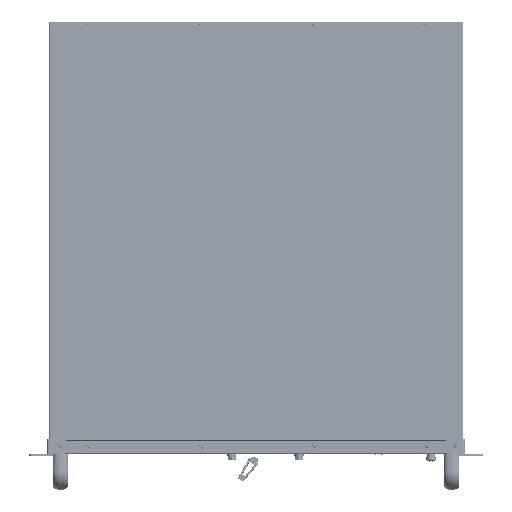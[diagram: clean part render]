
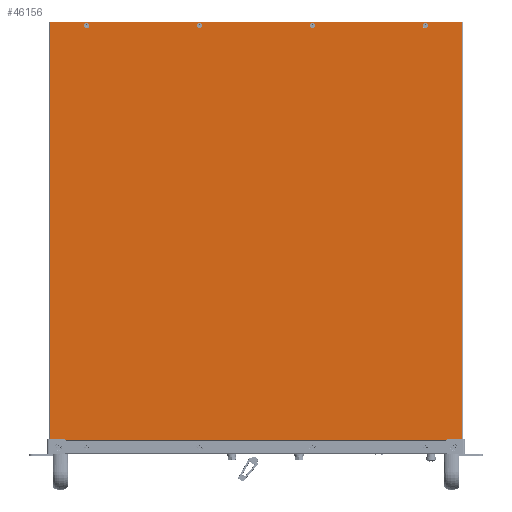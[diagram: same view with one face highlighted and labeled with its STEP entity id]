
A CAD part, top view. The second image highlights one B-rep face of the part: STEP entity #46156.
In plain terms, the highlighted planar face has unit normal (0, 0, 1) as drawn and (0, 0, -1) by its records, which use the part's own axes.
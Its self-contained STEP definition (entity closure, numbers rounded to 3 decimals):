
#44537=DIRECTION('',(0.,1.,0.));
#44538=VECTOR('',#44537,0.8);
#44539=CARTESIAN_POINT('',(202.,-221.3,0.));
#44540=LINE('',#44539,#44538);
#44541=DIRECTION('',(1.,0.,0.));
#44542=VECTOR('',#44541,16.3);
#44543=CARTESIAN_POINT('',(202.3,-222.5,0.));
#44544=LINE('',#44543,#44542);
#44545=DIRECTION('',(-1.,0.,0.));
#44546=VECTOR('',#44545,437.2);
#44547=CARTESIAN_POINT('',(218.6,222.5,0.));
#44548=LINE('',#44547,#44546);
#44549=DIRECTION('',(1.,0.,0.));
#44550=VECTOR('',#44549,16.3);
#44551=CARTESIAN_POINT('',(-218.6,-222.5,0.));
#44552=LINE('',#44551,#44550);
#44553=DIRECTION('',(0.,1.,0.));
#44554=VECTOR('',#44553,2.);
#44555=CARTESIAN_POINT('',(-202.3,-222.5,0.));
#44556=LINE('',#44555,#44554);
#44557=CARTESIAN_POINT('',(-180.,218.5,0.));
#44558=DIRECTION('',(0.,0.,-1.));
#44559=DIRECTION('',(1.,0.,0.));
#44560=AXIS2_PLACEMENT_3D('',#44557,#44558,#44559);
#44562=CARTESIAN_POINT('',(-180.,218.5,0.));
#44563=DIRECTION('',(0.,0.,-1.));
#44564=DIRECTION('',(0.,-1.,0.));
#44565=AXIS2_PLACEMENT_3D('',#44562,#44563,#44564);
#44567=CARTESIAN_POINT('',(-180.,218.5,0.));
#44568=DIRECTION('',(0.,0.,-1.));
#44569=DIRECTION('',(-1.,0.,0.));
#44570=AXIS2_PLACEMENT_3D('',#44567,#44568,#44569);
#44572=CARTESIAN_POINT('',(-180.,218.5,0.));
#44573=DIRECTION('',(0.,0.,-1.));
#44574=DIRECTION('',(0.,1.,0.));
#44575=AXIS2_PLACEMENT_3D('',#44572,#44573,#44574);
#44577=CARTESIAN_POINT('',(60.,218.5,0.));
#44578=DIRECTION('',(0.,0.,-1.));
#44579=DIRECTION('',(-1.,0.,0.));
#44580=AXIS2_PLACEMENT_3D('',#44577,#44578,#44579);
#44582=CARTESIAN_POINT('',(60.,218.5,0.));
#44583=DIRECTION('',(0.,0.,-1.));
#44584=DIRECTION('',(0.,1.,0.));
#44585=AXIS2_PLACEMENT_3D('',#44582,#44583,#44584);
#44587=CARTESIAN_POINT('',(60.,218.5,0.));
#44588=DIRECTION('',(0.,0.,-1.));
#44589=DIRECTION('',(1.,0.,0.));
#44590=AXIS2_PLACEMENT_3D('',#44587,#44588,#44589);
#44592=CARTESIAN_POINT('',(60.,218.5,0.));
#44593=DIRECTION('',(0.,0.,-1.));
#44594=DIRECTION('',(0.,-1.,0.));
#44595=AXIS2_PLACEMENT_3D('',#44592,#44593,#44594);
#44597=CARTESIAN_POINT('',(180.,218.5,0.));
#44598=DIRECTION('',(0.,0.,-1.));
#44599=DIRECTION('',(-1.,0.,0.));
#44600=AXIS2_PLACEMENT_3D('',#44597,#44598,#44599);
#44602=CARTESIAN_POINT('',(180.,218.5,0.));
#44603=DIRECTION('',(0.,0.,-1.));
#44604=DIRECTION('',(0.,1.,0.));
#44605=AXIS2_PLACEMENT_3D('',#44602,#44603,#44604);
#44607=CARTESIAN_POINT('',(180.,218.5,0.));
#44608=DIRECTION('',(0.,0.,-1.));
#44609=DIRECTION('',(1.,0.,0.));
#44610=AXIS2_PLACEMENT_3D('',#44607,#44608,#44609);
#44612=CARTESIAN_POINT('',(180.,218.5,0.));
#44613=DIRECTION('',(0.,0.,-1.));
#44614=DIRECTION('',(0.,-1.,0.));
#44615=AXIS2_PLACEMENT_3D('',#44612,#44613,#44614);
#44617=CARTESIAN_POINT('',(-60.,218.5,0.));
#44618=DIRECTION('',(0.,0.,-1.));
#44619=DIRECTION('',(1.,0.,0.));
#44620=AXIS2_PLACEMENT_3D('',#44617,#44618,#44619);
#44622=CARTESIAN_POINT('',(-60.,218.5,0.));
#44623=DIRECTION('',(0.,0.,-1.));
#44624=DIRECTION('',(0.,-1.,0.));
#44625=AXIS2_PLACEMENT_3D('',#44622,#44623,#44624);
#44627=CARTESIAN_POINT('',(-60.,218.5,0.));
#44628=DIRECTION('',(0.,0.,-1.));
#44629=DIRECTION('',(-1.,0.,0.));
#44630=AXIS2_PLACEMENT_3D('',#44627,#44628,#44629);
#44632=CARTESIAN_POINT('',(-60.,218.5,0.));
#44633=DIRECTION('',(0.,0.,-1.));
#44634=DIRECTION('',(0.,1.,0.));
#44635=AXIS2_PLACEMENT_3D('',#44632,#44633,#44634);
#44641=DIRECTION('',(-1.,0.,0.));
#44642=VECTOR('',#44641,404.);
#44643=CARTESIAN_POINT('',(202.,-221.3,0.));
#44644=LINE('',#44643,#44642);
#44650=DIRECTION('',(0.,1.,0.));
#44651=VECTOR('',#44650,0.8);
#44652=CARTESIAN_POINT('',(-202.,-221.3,0.));
#44653=LINE('',#44652,#44651);
#44667=DIRECTION('',(-1.,0.,0.));
#44668=VECTOR('',#44667,0.3);
#44669=CARTESIAN_POINT('',(-202.,-220.5,0.));
#44670=LINE('',#44669,#44668);
#44709=DIRECTION('',(0.,1.,0.));
#44710=VECTOR('',#44709,445.);
#44711=CARTESIAN_POINT('',(-218.6,-222.5,0.));
#44712=LINE('',#44711,#44710);
#44893=DIRECTION('',(0.,-1.,0.));
#44894=VECTOR('',#44893,445.);
#44895=CARTESIAN_POINT('',(218.6,222.5,0.));
#44896=LINE('',#44895,#44894);
#44915=DIRECTION('',(0.,1.,0.));
#44916=VECTOR('',#44915,2.);
#44917=CARTESIAN_POINT('',(202.3,-222.5,0.));
#44918=LINE('',#44917,#44916);
#44919=DIRECTION('',(-1.,0.,0.));
#44920=VECTOR('',#44919,0.3);
#44921=CARTESIAN_POINT('',(202.3,-220.5,0.));
#44922=LINE('',#44921,#44920);
#45741=CARTESIAN_POINT('',(202.,-221.3,0.));
#45742=CARTESIAN_POINT('',(-202.,-221.3,0.));
#45743=VERTEX_POINT('',#45741);
#45744=VERTEX_POINT('',#45742);
#45745=CARTESIAN_POINT('',(202.,-220.5,0.));
#45746=VERTEX_POINT('',#45745);
#45747=CARTESIAN_POINT('',(202.3,-220.5,0.));
#45748=VERTEX_POINT('',#45747);
#45749=CARTESIAN_POINT('',(202.3,-222.5,0.));
#45750=VERTEX_POINT('',#45749);
#45751=CARTESIAN_POINT('',(218.6,-222.5,0.));
#45752=VERTEX_POINT('',#45751);
#45753=CARTESIAN_POINT('',(218.6,222.5,0.));
#45754=VERTEX_POINT('',#45753);
#45755=CARTESIAN_POINT('',(-218.6,222.5,0.));
#45756=VERTEX_POINT('',#45755);
#45757=CARTESIAN_POINT('',(-218.6,-222.5,0.));
#45758=VERTEX_POINT('',#45757);
#45759=CARTESIAN_POINT('',(-202.3,-222.5,0.));
#45760=VERTEX_POINT('',#45759);
#45761=CARTESIAN_POINT('',(-202.3,-220.5,0.));
#45762=VERTEX_POINT('',#45761);
#45763=CARTESIAN_POINT('',(-202.,-220.5,0.));
#45764=VERTEX_POINT('',#45763);
#45765=CARTESIAN_POINT('',(-177.25,218.5,0.));
#45766=CARTESIAN_POINT('',(-180.,215.75,0.));
#45767=VERTEX_POINT('',#45765);
#45768=VERTEX_POINT('',#45766);
#45769=CARTESIAN_POINT('',(-182.75,218.5,0.));
#45770=VERTEX_POINT('',#45769);
#45771=CARTESIAN_POINT('',(-180.,221.25,0.));
#45772=VERTEX_POINT('',#45771);
#45773=CARTESIAN_POINT('',(57.25,218.5,0.));
#45774=CARTESIAN_POINT('',(60.,221.25,0.));
#45775=VERTEX_POINT('',#45773);
#45776=VERTEX_POINT('',#45774);
#45777=CARTESIAN_POINT('',(62.75,218.5,0.));
#45778=VERTEX_POINT('',#45777);
#45779=CARTESIAN_POINT('',(60.,215.75,0.));
#45780=VERTEX_POINT('',#45779);
#45781=CARTESIAN_POINT('',(177.25,218.5,0.));
#45782=CARTESIAN_POINT('',(180.,221.25,0.));
#45783=VERTEX_POINT('',#45781);
#45784=VERTEX_POINT('',#45782);
#45785=CARTESIAN_POINT('',(182.75,218.5,0.));
#45786=VERTEX_POINT('',#45785);
#45787=CARTESIAN_POINT('',(180.,215.75,0.));
#45788=VERTEX_POINT('',#45787);
#45789=CARTESIAN_POINT('',(-57.25,218.5,0.));
#45790=CARTESIAN_POINT('',(-60.,215.75,0.));
#45791=VERTEX_POINT('',#45789);
#45792=VERTEX_POINT('',#45790);
#45793=CARTESIAN_POINT('',(-62.75,218.5,0.));
#45794=VERTEX_POINT('',#45793);
#45795=CARTESIAN_POINT('',(-60.,221.25,0.));
#45796=VERTEX_POINT('',#45795);
#46085=CARTESIAN_POINT('',(0.,0.,0.));
#46086=DIRECTION('',(0.,0.,1.));
#46087=DIRECTION('',(1.,0.,0.));
#46088=AXIS2_PLACEMENT_3D('',#46085,#46086,#46087);
#46089=PLANE('',#46088);
#46091=ORIENTED_EDGE('',*,*,#46090,.F.);
#46093=ORIENTED_EDGE('',*,*,#46092,.T.);
#46095=ORIENTED_EDGE('',*,*,#46094,.F.);
#46097=ORIENTED_EDGE('',*,*,#46096,.F.);
#46099=ORIENTED_EDGE('',*,*,#46098,.T.);
#46101=ORIENTED_EDGE('',*,*,#46100,.F.);
#46103=ORIENTED_EDGE('',*,*,#46102,.T.);
#46105=ORIENTED_EDGE('',*,*,#46104,.F.);
#46107=ORIENTED_EDGE('',*,*,#46106,.T.);
#46109=ORIENTED_EDGE('',*,*,#46108,.T.);
#46111=ORIENTED_EDGE('',*,*,#46110,.F.);
#46113=ORIENTED_EDGE('',*,*,#46112,.F.);
#46114=EDGE_LOOP('',(#46091,#46093,#46095,#46097,#46099,#46101,#46103,#46105,
#46107,#46109,#46111,#46113));
#46115=FACE_OUTER_BOUND('',#46114,.F.);
#46117=ORIENTED_EDGE('',*,*,#46116,.T.);
#46119=ORIENTED_EDGE('',*,*,#46118,.T.);
#46121=ORIENTED_EDGE('',*,*,#46120,.T.);
#46123=ORIENTED_EDGE('',*,*,#46122,.T.);
#46124=EDGE_LOOP('',(#46117,#46119,#46121,#46123));
#46125=FACE_BOUND('',#46124,.F.);
#46127=ORIENTED_EDGE('',*,*,#46126,.T.);
#46129=ORIENTED_EDGE('',*,*,#46128,.T.);
#46131=ORIENTED_EDGE('',*,*,#46130,.T.);
#46133=ORIENTED_EDGE('',*,*,#46132,.T.);
#46134=EDGE_LOOP('',(#46127,#46129,#46131,#46133));
#46135=FACE_BOUND('',#46134,.F.);
#46137=ORIENTED_EDGE('',*,*,#46136,.T.);
#46139=ORIENTED_EDGE('',*,*,#46138,.T.);
#46141=ORIENTED_EDGE('',*,*,#46140,.T.);
#46143=ORIENTED_EDGE('',*,*,#46142,.T.);
#46144=EDGE_LOOP('',(#46137,#46139,#46141,#46143));
#46145=FACE_BOUND('',#46144,.F.);
#46147=ORIENTED_EDGE('',*,*,#46146,.T.);
#46149=ORIENTED_EDGE('',*,*,#46148,.T.);
#46151=ORIENTED_EDGE('',*,*,#46150,.T.);
#46153=ORIENTED_EDGE('',*,*,#46152,.T.);
#46154=EDGE_LOOP('',(#46147,#46149,#46151,#46153));
#46155=FACE_BOUND('',#46154,.F.);
#44561=CIRCLE('',#44560,2.75);
#44566=CIRCLE('',#44565,2.75);
#44571=CIRCLE('',#44570,2.75);
#44576=CIRCLE('',#44575,2.75);
#44581=CIRCLE('',#44580,2.75);
#44586=CIRCLE('',#44585,2.75);
#44591=CIRCLE('',#44590,2.75);
#44596=CIRCLE('',#44595,2.75);
#44601=CIRCLE('',#44600,2.75);
#44606=CIRCLE('',#44605,2.75);
#44611=CIRCLE('',#44610,2.75);
#44616=CIRCLE('',#44615,2.75);
#44621=CIRCLE('',#44620,2.75);
#44626=CIRCLE('',#44625,2.75);
#44631=CIRCLE('',#44630,2.75);
#44636=CIRCLE('',#44635,2.75);
#46090=EDGE_CURVE('',#45743,#45744,#44644,.T.);
#46092=EDGE_CURVE('',#45743,#45746,#44540,.T.);
#46094=EDGE_CURVE('',#45748,#45746,#44922,.T.);
#46096=EDGE_CURVE('',#45750,#45748,#44918,.T.);
#46098=EDGE_CURVE('',#45750,#45752,#44544,.T.);
#46100=EDGE_CURVE('',#45754,#45752,#44896,.T.);
#46102=EDGE_CURVE('',#45754,#45756,#44548,.T.);
#46104=EDGE_CURVE('',#45758,#45756,#44712,.T.);
#46106=EDGE_CURVE('',#45758,#45760,#44552,.T.);
#46108=EDGE_CURVE('',#45760,#45762,#44556,.T.);
#46110=EDGE_CURVE('',#45764,#45762,#44670,.T.);
#46112=EDGE_CURVE('',#45744,#45764,#44653,.T.);
#46116=EDGE_CURVE('',#45767,#45768,#44561,.T.);
#46118=EDGE_CURVE('',#45768,#45770,#44566,.T.);
#46120=EDGE_CURVE('',#45770,#45772,#44571,.T.);
#46122=EDGE_CURVE('',#45772,#45767,#44576,.T.);
#46126=EDGE_CURVE('',#45775,#45776,#44581,.T.);
#46128=EDGE_CURVE('',#45776,#45778,#44586,.T.);
#46130=EDGE_CURVE('',#45778,#45780,#44591,.T.);
#46132=EDGE_CURVE('',#45780,#45775,#44596,.T.);
#46136=EDGE_CURVE('',#45783,#45784,#44601,.T.);
#46138=EDGE_CURVE('',#45784,#45786,#44606,.T.);
#46140=EDGE_CURVE('',#45786,#45788,#44611,.T.);
#46142=EDGE_CURVE('',#45788,#45783,#44616,.T.);
#46146=EDGE_CURVE('',#45791,#45792,#44621,.T.);
#46148=EDGE_CURVE('',#45792,#45794,#44626,.T.);
#46150=EDGE_CURVE('',#45794,#45796,#44631,.T.);
#46152=EDGE_CURVE('',#45796,#45791,#44636,.T.);
#46156=ADVANCED_FACE('',(#46115,#46125,#46135,#46145,#46155),#46089,.F.);
